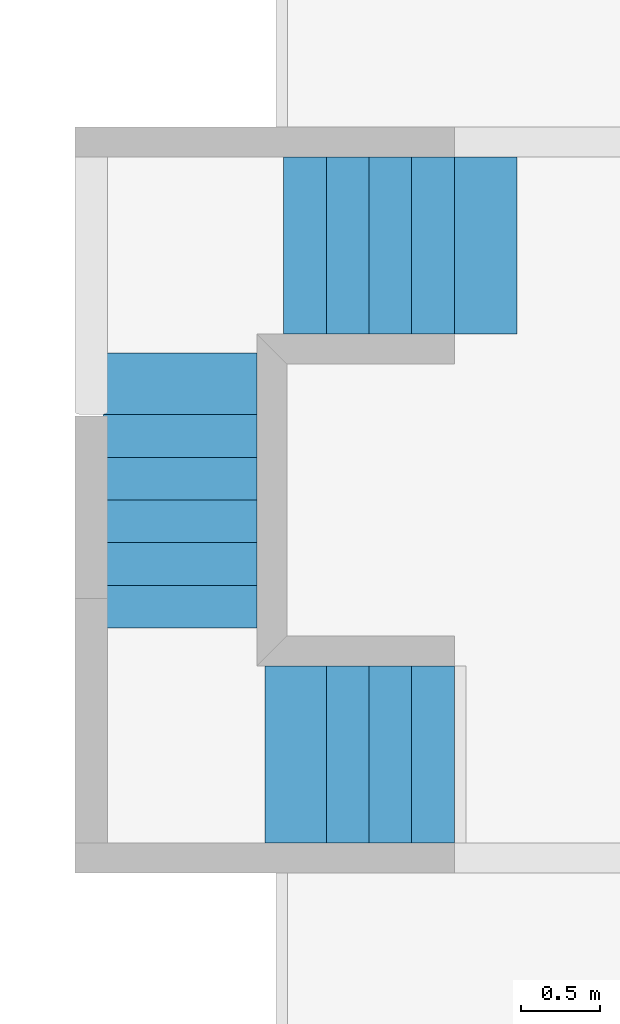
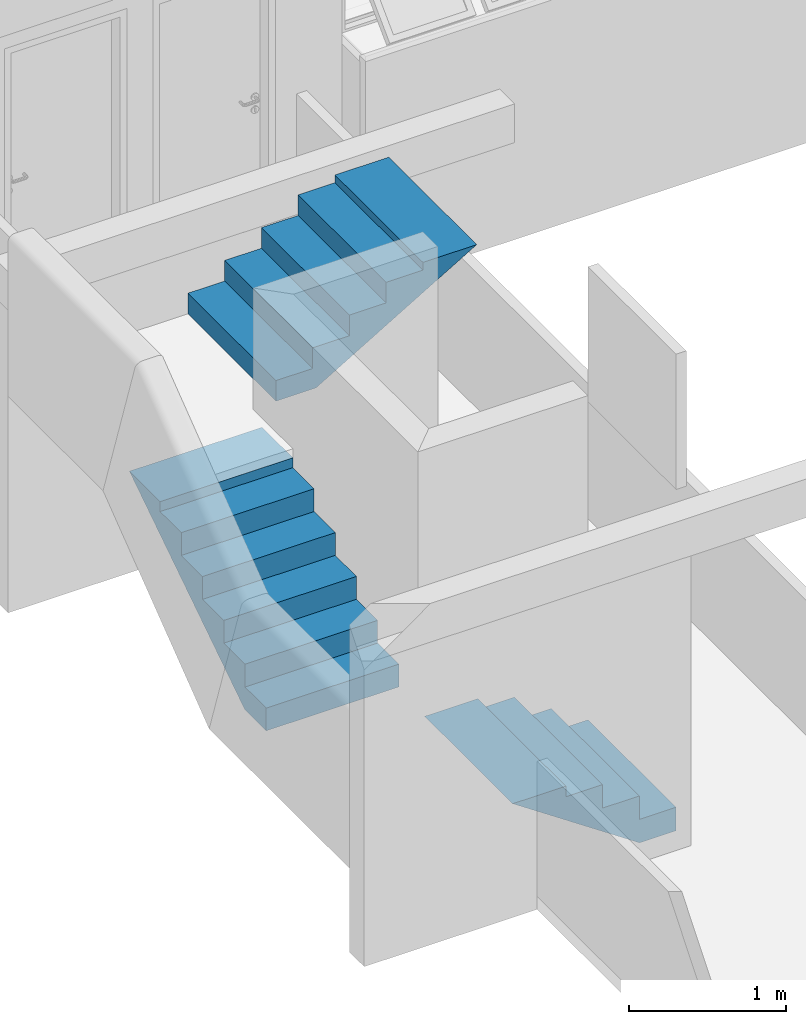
# One storey, part 41 of 41: 3 members, 3 elements without a shape of their own.
"""IFC4 building model written with IfcOpenShell, lengths in millimetres."""

from ifc_helpers import new_model, entity, si_unit, converted_unit, derived_unit, direction, frame, origin_with_axes, place, context, subcontext, project, spatial, polygons, material, type_object, element, aggregate, save


model = new_model("IFC4")

# Units and contexts
model_context = context("Model", 3, precision=0.01, world=origin_with_axes(), true_north=direction((0.0, 1.0)))
body_context = subcontext(model_context, "Body", "Model", "MODEL_VIEW")
ifc_project = project(units=[si_unit("LENGTHUNIT", "METRE", prefix="MILLI"), si_unit("AREAUNIT", "SQUARE_METRE"), si_unit("VOLUMEUNIT", "CUBIC_METRE"), converted_unit("PLANEANGLEUNIT", "DEGREE", entity("IfcPlaneAngleMeasure", 0.0174532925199), si_unit("PLANEANGLEUNIT", "RADIAN"), dimensions=[0, 0, 0, 0, 0, 0, 0]), converted_unit("TIMEUNIT", "Year", entity("IfcTimeMeasure", 31556926.0), si_unit("TIMEUNIT", "SECOND"), dimensions=[0, 0, 1, 0, 0, 0, 0]), si_unit("MASSUNIT", "GRAM", prefix="KILO"), si_unit("THERMODYNAMICTEMPERATUREUNIT", "DEGREE_CELSIUS"), si_unit("LUMINOUSINTENSITYUNIT", "LUMEN"), si_unit("ENERGYUNIT", "JOULE", prefix="MEGA"), derived_unit("THERMALCONDUCTANCEUNIT", [(si_unit("POWERUNIT", "WATT"), 1), (si_unit("LENGTHUNIT", "METRE"), -1), (si_unit("THERMODYNAMICTEMPERATUREUNIT", "KELVIN"), -1)]), derived_unit("SPECIFICHEATCAPACITYUNIT", [(si_unit("ENERGYUNIT", "JOULE"), 1), (si_unit("MASSUNIT", "GRAM", prefix="KILO"), -1), (si_unit("THERMODYNAMICTEMPERATUREUNIT", "KELVIN"), -1)]), derived_unit("MASSDENSITYUNIT", [(si_unit("MASSUNIT", "GRAM", prefix="KILO"), 1), (si_unit("VOLUMEUNIT", "CUBIC_METRE"), -1)])], contexts=[model_context])

# Site, building, storey
site_placement = place(None, origin_with_axes())
site = spatial("IfcSite", under=ifc_project, at=site_placement, Name="Local", CompositionType="ELEMENT")
building_placement = place(site_placement, origin_with_axes())
building = spatial("IfcBuilding", under=site, at=building_placement, Name="Construção", CompositionType="ELEMENT")
storey_placement = place(building_placement, frame((0.0, 0.0, 2650.0), z_axis=(0.0, 0.0, 1.0), x_axis=(1.0, 0.0, 0.0)))
storey = spatial("IfcBuildingStorey", under=building, at=storey_placement, Name="Segundo Pavimento", CompositionType="ELEMENT", Elevation=2650.0)

# Stair, member
stair_type = type_object("IfcStairType", Name="Tipo de Escada", PredefinedType="NOTDEFINED")
stair_1_placement = place(storey_placement, frame((6210.0, 14130.0, 1710.57075871), z_axis=(0.0, 0.0, 1.0), x_axis=(-1.0, 0.0, 0.0)))
stair_1 = element("IfcStair", 1, at=stair_1_placement, inside=storey, type_object=stair_type, Name="CIRC2-ESCADA-002", PredefinedType="NOTDEFINED")
ifc_material = material(Name="Concreto - Estrutural")
member_type = type_object("IfcMemberType", Name="IfcMember", PredefinedType="NOTDEFINED")
member_1_placement = place(stair_1_placement, origin_with_axes())
member_1 = element("IfcMember", 2, at=member_1_placement, type_object=member_type, material=ifc_material, Name="CIRC2-Lance - 005", PredefinedType="NOTDEFINED", context=body_context, shape_type="Tessellation", body=[
    polygons([(-1170.0, 0.0, 518.78088097), (-1170.0, -1120.0, 518.78088097), (-1260.0, -1120.0, 572.098333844), (-1260.0, 0.0, 572.098333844), (-1080.0, 0.0, 465.463428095), (-1080.0, -1120.0, 465.463428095), (-1475.49625339, -1120.0, 699.761793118), (-1350.0, -1120.0, 625.415786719), (-990.0, -1120.0, 412.145975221), (-900.0, -1120.0, 358.828522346), (-810.0, -1120.0, 305.511069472), (-720.0, -1120.0, 252.193616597), (-630.0, -1120.0, 198.876163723), (-540.0, -1120.0, 145.558710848), (-450.0, -1120.0, 92.2412579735), (-360.0, -1120.0, 38.923805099), (-294.296515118, -1120.0, 0.0), (0.0, -1120.0, 0.0), (0.0, -1120.0, 159.952358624), (-270.0, -1120.0, 159.952358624), (-270.0, -1120.0, 319.904717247), (-540.0, -1120.0, 319.904717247), (-540.0, -1120.0, 479.857075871), (-810.0, -1120.0, 479.857075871), (-810.0, -1120.0, 639.809434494), (-1080.0, -1120.0, 639.809434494), (-1080.0, -1120.0, 699.761793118), (-1475.49625339, 0.0, 699.761793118), (-1350.0, 0.0, 625.415786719), (-1080.0, 0.0, 699.761793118), (-1080.0, 0.0, 639.809434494), (-810.0, 0.0, 639.809434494), (-810.0, 0.0, 479.857075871), (-540.0, 0.0, 479.857075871), (-540.0, 0.0, 319.904717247), (-270.0, 0.0, 319.904717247), (-270.0, 0.0, 159.952358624), (0.0, 0.0, 159.952358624), (0.0, 0.0, 0.0), (-294.296515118, 0.0, 0.0), (-360.0, 0.0, 38.923805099), (-450.0, 0.0, 92.2412579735), (-540.0, 0.0, 145.558710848), (-630.0, 0.0, 198.876163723), (-720.0, 0.0, 252.193616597), (-810.0, 0.0, 305.511069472), (-900.0, 0.0, 358.828522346), (-990.0, 0.0, 412.145975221)], [[[1, 2, 3, 4]], [[5, 6, 2, 1]], [[7, 8, 3, 2, 6, 9, 10, 11, 12, 13, 14, 15, 16, 17, 18, 19, 20, 21, 22, 23, 24, 25, 26, 27]], [[7, 28, 29, 4, 3, 8]], [[28, 30, 31, 32, 33, 34, 35, 36, 37, 38, 39, 40, 41, 42, 43, 44, 45, 46, 47, 48, 5, 1, 4, 29]], [[48, 9, 6, 5]], [[47, 10, 9, 48]], [[46, 11, 10, 47]], [[45, 12, 11, 46]], [[44, 13, 12, 45]], [[43, 14, 13, 44]], [[42, 15, 14, 43]], [[41, 16, 15, 42]], [[40, 17, 16, 41]], [[40, 39, 18, 17]], [[38, 19, 18, 39]], [[37, 20, 19, 38]], [[20, 37, 36, 21]], [[35, 22, 21, 36]], [[22, 35, 34, 23]], [[33, 24, 23, 34]], [[24, 33, 32, 25]], [[31, 26, 25, 32]], [[27, 26, 31, 30]], [[7, 27, 30, 28]]], closed=True),
])
aggregate(stair_1, [member_1])

stair_2_placement = place(storey_placement, frame((6040.0, 12000.0, 680.0), z_axis=(0.0, 0.0, 1.0), x_axis=(1.0, 0.0, 0.0)))
stair_2 = element("IfcStair", 3, at=stair_2_placement, inside=storey, type_object=stair_type, Name="CIRC2-ESCADA-000", PredefinedType="NOTDEFINED")
member_2_placement = place(stair_2_placement, origin_with_axes())
member_2 = element("IfcMember", 4, at=member_2_placement, type_object=member_type, material=ifc_material, Name="CIRC2-Lance - 007", PredefinedType="NOTDEFINED", context=body_context, shape_type="Tessellation", body=[
    polygons([(-975.0, 1620.0, 883.808965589), (-975.0, 1350.0, 883.808965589), (0.0, 1350.0, 883.808965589), (0.0, 1620.0, 883.808965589), (-975.0, 1620.0, 960.570758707), (-975.0, 2011.10758728, 960.570758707), (-975.0, 1620.0, 704.523060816), (-975.0, 1530.0, 645.60246311), (-975.0, 1440.0, 586.681865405), (-975.0, 1350.0, 527.761267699), (-975.0, 1260.0, 468.840669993), (-975.0, 1170.0, 409.920072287), (-975.0, 1080.0, 350.999474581), (-975.0, 990.0, 292.078876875), (-975.0, 900.0, 233.158279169), (-975.0, 810.0, 174.237681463), (-975.0, 720.0, 115.317083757), (-975.0, 630.0, 56.3964860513), (-975.0, 543.855528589, 0.0), (-975.0, 270.0, 0.0), (-975.0, 270.0, 176.761793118), (-975.0, 540.0, 176.761793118), (-975.0, 540.0, 353.523586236), (-975.0, 810.0, 353.523586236), (-975.0, 810.0, 530.285379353), (-975.0, 1080.0, 530.285379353), (-975.0, 1080.0, 707.047172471), (-975.0, 1350.0, 707.047172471), (0.0, 1350.0, 707.047172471), (0.0, 1620.0, 704.523060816), (0.0, 2011.10758728, 960.570758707), (0.0, 1620.0, 960.570758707), (0.0, 1080.0, 707.047172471), (0.0, 1080.0, 530.285379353), (0.0, 810.0, 530.285379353), (0.0, 810.0, 353.523586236), (0.0, 540.0, 353.523586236), (0.0, 540.0, 176.761793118), (0.0, 270.0, 176.761793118), (0.0, 270.0, 0.0), (0.0, 543.855528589, 0.0), (0.0, 630.0, 56.3964860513), (0.0, 720.0, 115.317083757), (0.0, 810.0, 174.237681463), (0.0, 900.0, 233.158279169), (0.0, 990.0, 292.078876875), (0.0, 1080.0, 350.999474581), (0.0, 1170.0, 409.920072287), (0.0, 1260.0, 468.840669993), (0.0, 1350.0, 527.761267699), (0.0, 1440.0, 586.681865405), (0.0, 1530.0, 645.60246311)], [[[1, 2, 3, 4]], [[1, 5, 6, 7, 8, 9, 10, 11, 12, 13, 14, 15, 16, 17, 18, 19, 20, 21, 22, 23, 24, 25, 26, 27, 28, 2]], [[2, 28, 29, 3]], [[30, 31, 32, 4, 3, 29, 33, 34, 35, 36, 37, 38, 39, 40, 41, 42, 43, 44, 45, 46, 47, 48, 49, 50, 51, 52]], [[4, 32, 5, 1]], [[5, 32, 31, 6]], [[7, 6, 31, 30, 52, 8]], [[9, 8, 52, 51]], [[10, 9, 51, 50]], [[11, 10, 50, 49]], [[12, 11, 49, 48]], [[13, 12, 48, 47]], [[14, 13, 47, 46]], [[15, 14, 46, 45]], [[16, 15, 45, 44]], [[17, 16, 44, 43]], [[18, 17, 43, 42]], [[19, 18, 42, 41]], [[20, 19, 41, 40]], [[21, 20, 40, 39]], [[39, 38, 22, 21]], [[23, 22, 38, 37]], [[37, 36, 24, 23]], [[25, 24, 36, 35]], [[35, 34, 26, 25]], [[27, 26, 34, 33]], [[33, 29, 28, 27]]], closed=True),
])
aggregate(stair_2, [member_2])

stair_3_placement = place(storey_placement, frame((7290.0, 10910.0, -50.0), z_axis=(0.0, 0.0, 1.0), x_axis=(1.0, 0.0, 0.0)))
stair_3 = element("IfcStair", 5, at=stair_3_placement, inside=storey, type_object=stair_type, Name="CIRC2-ESCADA-001", PredefinedType="NOTDEFINED")
member_3_placement = place(stair_3_placement, origin_with_axes())
member_3 = element("IfcMember", 6, at=member_3_placement, type_object=member_type, material=ifc_material, Name="CIRC2-Lance - 005", PredefinedType="NOTDEFINED", context=body_context, shape_type="Tessellation", body=[
    polygons([(-810.0, 1120.0, 547.5), (-810.0, 0.0, 547.5), (-540.0, 0.0, 547.5), (-540.0, 1120.0, 547.5), (-810.0, 1120.0, 630.0), (-810.0, 0.0, 630.0), (-810.0, 0.0, 366.448331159), (-720.0, 0.0, 305.614997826), (-630.0, 0.0, 244.781664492), (-540.0, 0.0, 183.948331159), (-450.0, 0.0, 123.114997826), (-360.0, 0.0, 62.2816644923), (-270.0, 0.0, 1.44833115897), (-267.857263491, 0.0, 0.0), (0.0, 0.0, 0.0), (0.0, 0.0, 182.5), (-270.0, 0.0, 182.5), (-270.0, 0.0, 365.0), (-540.0, 0.0, 365.0), (-1199.91205801, 0.0, 630.0), (-540.0, 1120.0, 365.0), (-270.0, 1120.0, 365.0), (-270.0, 1120.0, 182.5), (0.0, 1120.0, 182.5), (0.0, 1120.0, 0.0), (-267.857263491, 1120.0, 0.0), (-270.0, 1120.0, 1.44833115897), (-360.0, 1120.0, 62.2816644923), (-450.0, 1120.0, 123.114997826), (-540.0, 1120.0, 183.948331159), (-630.0, 1120.0, 244.781664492), (-720.0, 1120.0, 305.614997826), (-810.0, 1120.0, 366.448331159), (-1199.91205801, 1120.0, 630.0)], [[[1, 2, 3, 4]], [[2, 1, 5, 6]], [[7, 8, 9, 10, 11, 12, 13, 14, 15, 16, 17, 18, 19, 3, 2, 6, 20]], [[4, 3, 19, 21]], [[1, 4, 21, 22, 23, 24, 25, 26, 27, 28, 29, 30, 31, 32, 33, 34, 5]], [[5, 34, 20, 6]], [[33, 32, 8, 7, 20, 34]], [[8, 32, 31, 9]], [[9, 31, 30, 10]], [[10, 30, 29, 11]], [[11, 29, 28, 12]], [[12, 28, 27, 13]], [[13, 27, 26, 14]], [[26, 25, 15, 14]], [[15, 25, 24, 16]], [[16, 24, 23, 17]], [[22, 18, 17, 23]], [[18, 22, 21, 19]]], closed=True),
])
aggregate(stair_3, [member_3])

save(model, "model.ifc")
